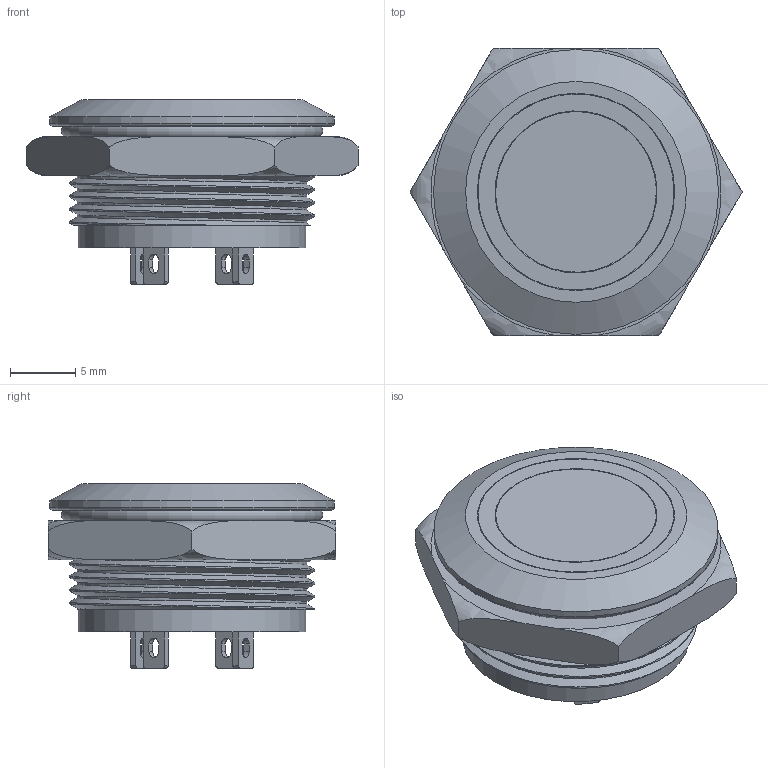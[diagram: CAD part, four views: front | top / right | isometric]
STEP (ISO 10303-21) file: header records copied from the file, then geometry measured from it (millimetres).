
FILE_DESCRIPTION(/* description */ (''),/* implementation_level */ '2;1');
FILE_NAME(/* name */ 'EJ19-271PM.stp',/* time_stamp */ '2019-11-08T13:55:36+08:00',/* author */ (''),/* organization */ (''),/* preprocessor_version */ 'ST-DEVELOPER v11',/* originating_system */ 'SIEMENS UGS NX 6.0',/* authorisation */ '');
FILE_SCHEMA (('CONFIG_CONTROL_DESIGN'));
Length unit declared in the file: millimetre
Products named in the file (8): JH8.683.060; JH8.382.028; JH7.740.176; JH7.810.264; JH7.370.461; JH8.382.289; JH8.382.291; EJ19-271PM
Assembly tree (10 placements, depth 2):
  EJ19-271PM
    JH8.382.291
    JH8.382.289
    JH7.370.461
    JH7.810.264
    JH7.740.176  x4
    JH8.382.028
    JH8.683.060
Bounding box: 25.4 x 22 x 14.1 mm (x, y, z)
Volume: 2633.8 mm3; surface area: 5014.3 mm2
Topology: 10 solids, 11 shells, 287 faces, 720 edges, 473 vertices
Faces by surface type: plane 196, cylinder 52, torus 20, extrusion 8, bspline 7, cone 4
Full cylindrical faces by diameter (mm): 2.2 x2, 2.6 x1, 6.2 x1, 10.4 x1, 12.3 x1, 12.4 x1, 15 x1, 15.1 x1, 15.7 x1, 16.6 x1, 16.8 x1, 17.4 x1, 21.8 x1
Entity records: 9447 total; most frequent: CARTESIAN_POINT 3535, ORIENTED_EDGE 1012, DIRECTION 945, EDGE_CURVE 506, VERTEX_POINT 345, AXIS2_PLACEMENT_3D 321, VECTOR 303, LINE 295
